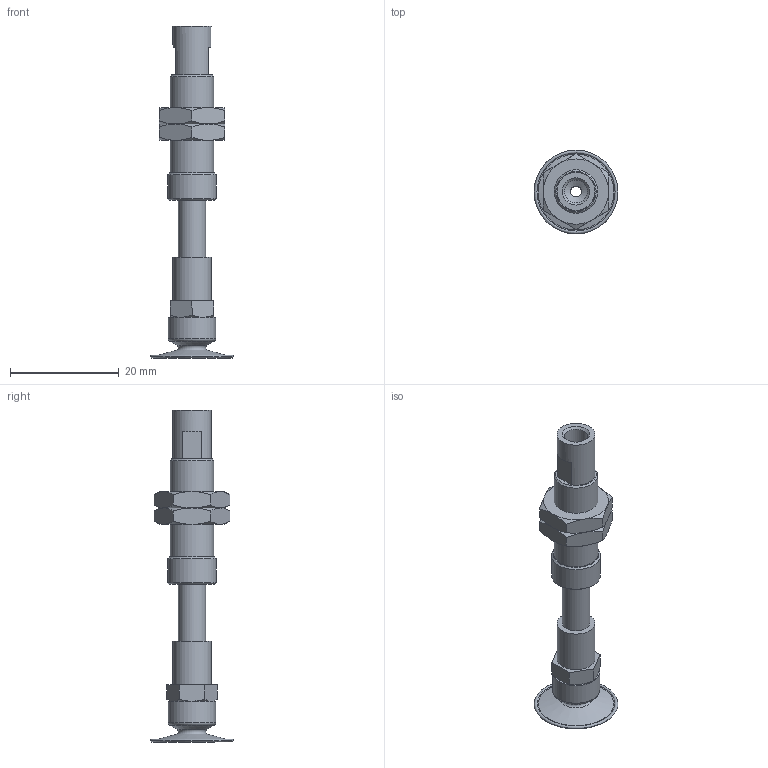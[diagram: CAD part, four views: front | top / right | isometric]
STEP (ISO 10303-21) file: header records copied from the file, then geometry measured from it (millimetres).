
FILE_DESCRIPTION(('STEP AP203'),'1');
FILE_NAME('-SPE.stp','2025-04-01T05:25:55',(' '),(' '),'Spatial InterOp 3D',' ',' ');
FILE_SCHEMA(('CONFIG_CONTROL_DESIGN'));
Length unit declared in the file: millimetre
Products named in the file (8): BNABPATS-15B-10-※-SPE; ZIG; BODY; NUT; TN-PS-10-M5; Setting screws-TN-PS-10-M5; BPAG-15B
Assembly tree (7 placements, depth 3):
  BNABPATS-15B-10-※-SPE
    ZIG
    BODY
    NUT
    NUT
    TN-PS-10-M5
      Setting screws-TN-PS-10-M5
    BPAG-15B
Bounding box: 15.4 x 15.4 x 61 mm (x, y, z)
Volume: 2730.6 mm3; surface area: 4226.1 mm2
Topology: 6 solids, 6 shells, 179 faces, 395 edges, 240 vertices
Faces by surface type: plane 78, cone 56, cylinder 36, torus 9
Full cylindrical faces by diameter (mm): 2 x3, 3.9 x1, 4 x4, 4.2 x2, 5 x3, 5.2 x1, 6 x2, 7 x2, 7.25 x2, 8 x1, 8.5 x1, 8.7 x1, 9 x1
Entity records: 5022 total; most frequent: CARTESIAN_POINT 1005, DIRECTION 768, ORIENTED_EDGE 658, EDGE_CURVE 329, AXIS2_PLACEMENT_3D 326, EDGE_LOOP 254, VERTEX_POINT 225, FACE_OUTER_BOUND 212
